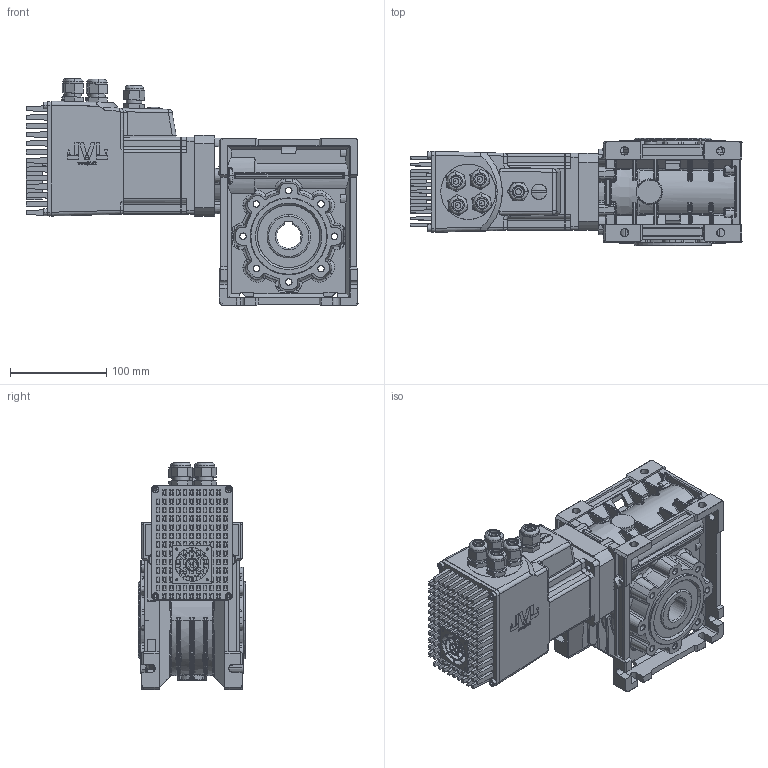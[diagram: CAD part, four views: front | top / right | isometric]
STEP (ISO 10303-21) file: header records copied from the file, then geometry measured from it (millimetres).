
FILE_DESCRIPTION (( 'STEP AP214' ), '1' );
FILE_NAME ('AF.00002670.STEP', '2019-05-28T13:21:00', ( '' ), ( '' ), 'SwSTEP 2.0', 'SolidWorks 2018', '' );
FILE_SCHEMA (( 'AUTOMOTIVE_DESIGN' ));
Length unit declared in the file: millimetre
Products named in the file (1): AF.00002670
Bounding box: 345 x 112 x 236.07 mm (x, y, z)
Surface area: 344189.5 mm2 (no closed solid volume)
Topology: 0 solids, 33 shells, 2818 faces, 8215 edges, 5393 vertices
Faces by surface type: plane 1485, cylinder 447, bspline 391, cone 309, torus 145, sphere 41
Entity records: 141515 total; most frequent: CARTESIAN_POINT 41968, ORIENTED_EDGE 14855, DIRECTION 12414, EDGE_CURVE 8163, VERTEX_POINT 5373, VECTOR 4550, LINE 4550, AXIS2_PLACEMENT_3D 3932
